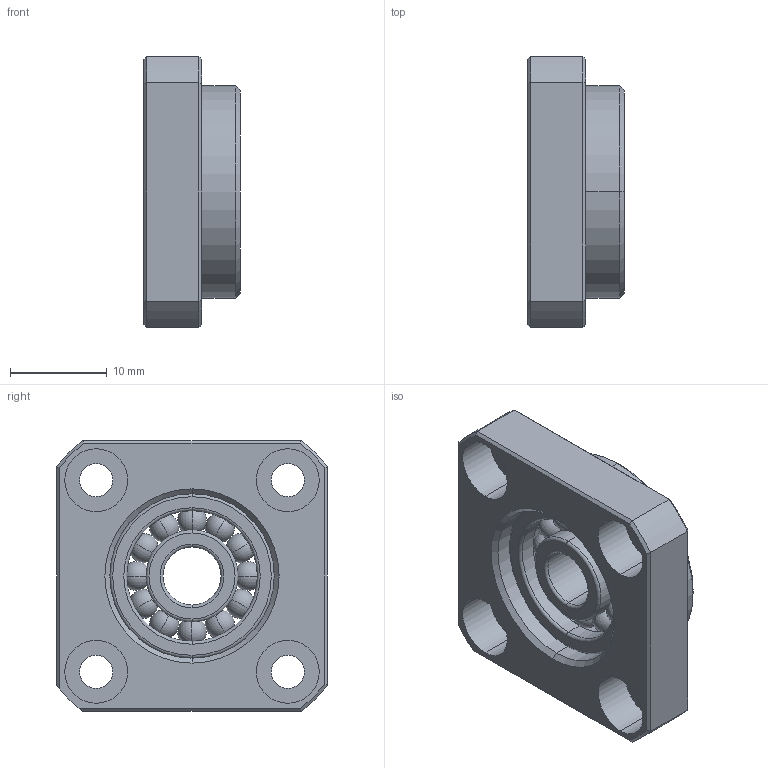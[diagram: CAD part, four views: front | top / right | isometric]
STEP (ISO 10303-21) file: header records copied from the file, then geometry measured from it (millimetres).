
FILE_DESCRIPTION (( 'STEP AP203' ), '1' );
FILE_NAME ('FF06²Õ¦X¥ó.STEP', '2010-10-04T07:46:20', ( '' ), ( '' ), 'SwSTEP 2.0', 'SolidWorks 2008', '' );
FILE_SCHEMA (( 'CONFIG_CONTROL_DESIGN' ));
Length unit declared in the file: millimetre
Products named in the file (1): FF06組合件
Bounding box: 10 x 28 x 28 mm (x, y, z)
Volume: 4106.1 mm3; surface area: 4226.5 mm2
Topology: 15 solids, 15 shells, 118 faces, 287 edges, 180 vertices
Faces by surface type: cylinder 36, sphere 24, plane 23, torus 22, cone 13
Entity records: 3135 total; most frequent: DIRECTION 598, CARTESIAN_POINT 538, ORIENTED_EDGE 454, AXIS2_PLACEMENT_3D 268, EDGE_CURVE 227, CIRCLE 149, VERTEX_POINT 144, EDGE_LOOP 137
